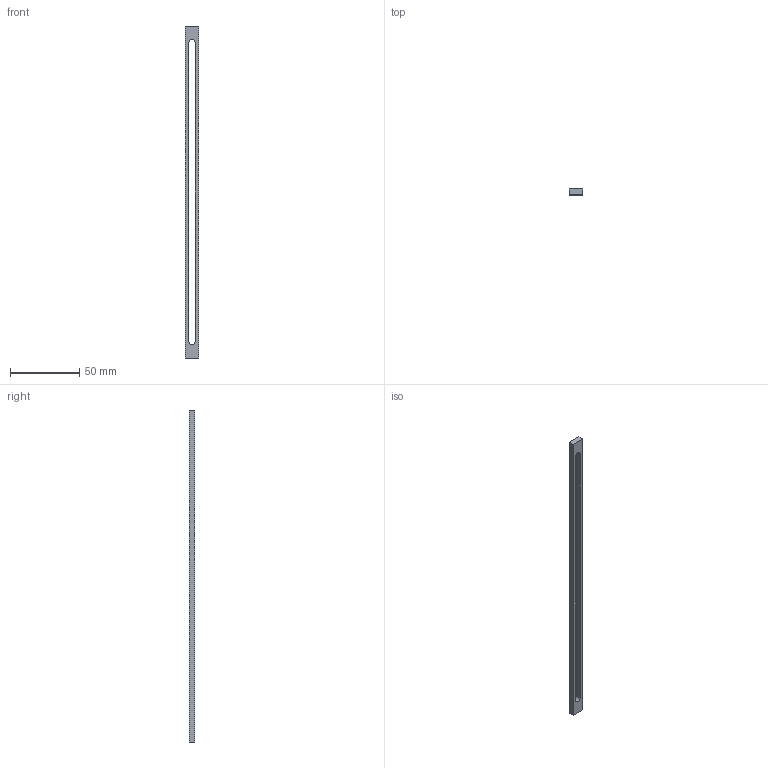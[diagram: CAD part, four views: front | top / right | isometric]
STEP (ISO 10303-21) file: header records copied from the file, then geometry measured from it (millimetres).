
FILE_DESCRIPTION(('Open CASCADE Model'),'2;1');
FILE_NAME('Open CASCADE Shape Model','2026-11-08T06:43:58',('Author'),( 'Open CASCADE'),'Open CASCADE STEP processor 7.8','Open CASCADE 7.8' ,'Unknown');
FILE_SCHEMA(('AUTOMOTIVE_DESIGN { 1 0 10303 214 1 1 1 1 }'));
Length unit declared in the file: millimetre
Products named in the file (1): Open CASCADE STEP translator 7.8 18
Bounding box: 10 x 4 x 240 mm (x, y, z)
Volume: 5648.4 mm3; surface area: 6608.7 mm2
Topology: 1 solids, 1 shells, 10 faces, 24 edges, 16 vertices
Faces by surface type: plane 8, cylinder 2
Entity records: 630 total; most frequent: CARTESIAN_POINT 123, DIRECTION 94, LINE 64, VECTOR 64, ORIENTED_EDGE 48, PCURVE 48, DEFINITIONAL_REPRESENTATION 48, EDGE_CURVE 24
